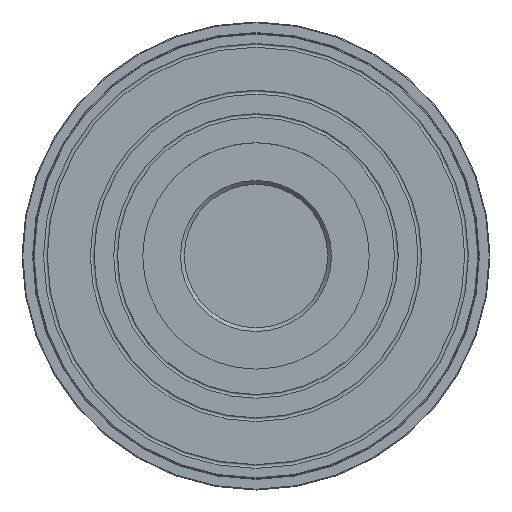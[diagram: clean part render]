
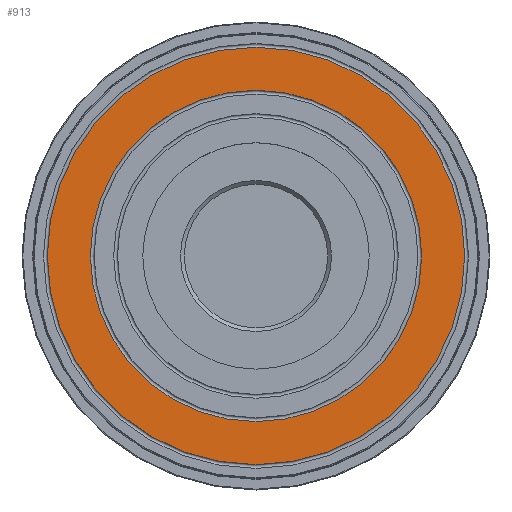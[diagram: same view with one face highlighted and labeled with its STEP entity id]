
A CAD part, top view. The second image highlights one B-rep face of the part: STEP entity #913.
In plain terms, the highlighted planar face has unit normal (0, 0, 1).
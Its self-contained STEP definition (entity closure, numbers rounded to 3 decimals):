
#913=ADVANCED_FACE('',(#1724,#1726),#1728,.T.);
#1724=FACE_BOUND('',#1725,.T.);
#1725=EDGE_LOOP('',(#4994));
#1726=FACE_BOUND('',#1727,.T.);
#1727=EDGE_LOOP('',(#4995));
#1728=PLANE('',#1729);
#1729=AXIS2_PLACEMENT_3D('',#1730,#1731,#1732);
#1730=CARTESIAN_POINT('',(0.,0.,0.));
#1731=DIRECTION('',(0.,0.,1.));
#1732=DIRECTION('',(0.,1.,0.));
#4994=ORIENTED_EDGE('',*,*,#5381,.T.);
#4995=ORIENTED_EDGE('',*,*,#5383,.T.);
#5381=EDGE_CURVE('',#5871,#5871,#5872,.F.);
#5383=EDGE_CURVE('',#5875,#5875,#5876,.T.);
#5871=VERTEX_POINT('',#8366);
#5872=CIRCLE('',#8367,55.3);
#5875=VERTEX_POINT('',#8376);
#5876=CIRCLE('',#8377,43.9);
#8366=CARTESIAN_POINT('',(0.,55.3,0.));
#8367=AXIS2_PLACEMENT_3D('',#8368,#8369,#8370);
#8368=CARTESIAN_POINT('',(0.,0.,0.));
#8369=DIRECTION('',(0.,0.,-1.));
#8370=DIRECTION('',(0.,1.,0.));
#8376=CARTESIAN_POINT('',(0.,43.9,0.));
#8377=AXIS2_PLACEMENT_3D('',#8378,#8379,#8380);
#8378=CARTESIAN_POINT('',(0.,0.,0.));
#8379=DIRECTION('',(0.,0.,-1.));
#8380=DIRECTION('',(0.,1.,0.));
